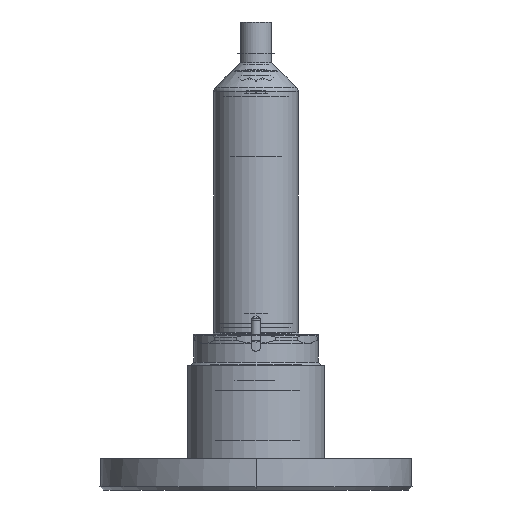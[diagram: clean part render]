
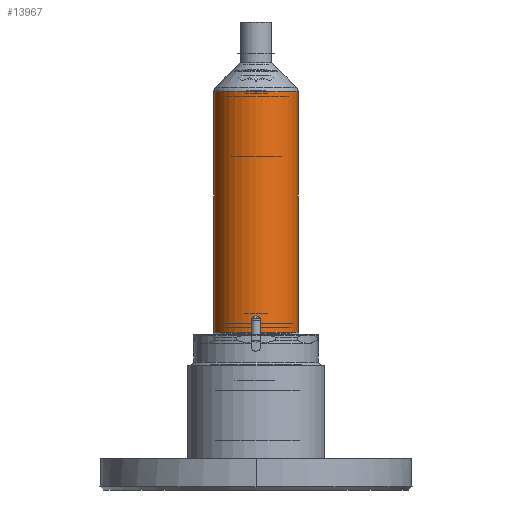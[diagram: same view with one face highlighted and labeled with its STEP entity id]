
A CAD part, front view. The second image highlights one B-rep face of the part: STEP entity #13967.
In plain terms, the highlighted cylindrical face has radius 13.5 mm (diameter 27 mm), a partial arc.
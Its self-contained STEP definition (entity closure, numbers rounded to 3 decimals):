
#1574 = DIRECTION ( 'NONE',  ( 0., 0., -1. ) ) ;
#1767 = EDGE_CURVE ( 'NONE', #4118, #15944, #16255, .T. ) ;
#1941 = DIRECTION ( 'NONE',  ( 1., 0., 0. ) ) ;
#2009 = CARTESIAN_POINT ( 'NONE',  ( 0., 0., 47.584 ) ) ;
#2486 = CARTESIAN_POINT ( 'NONE',  ( 13.5, 0., 40.5 ) ) ;
#2787 = CARTESIAN_POINT ( 'NONE',  ( -13.5, 0., 117.672 ) ) ;
#2825 = VERTEX_POINT ( 'NONE', #2486 ) ;
#3369 = EDGE_CURVE ( 'NONE', #4118, #2825, #9527, .T. ) ;
#3458 = DIRECTION ( 'NONE',  ( 0., 0., 1. ) ) ;
#4118 = VERTEX_POINT ( 'NONE', #5795 ) ;
#5009 = DIRECTION ( 'NONE',  ( 0., 0., 1. ) ) ;
#5795 = CARTESIAN_POINT ( 'NONE',  ( -13.5, 0., 40.5 ) ) ;
#6607 = CARTESIAN_POINT ( 'NONE',  ( 13.5, 0., 47.584 ) ) ;
#8753 = AXIS2_PLACEMENT_3D ( 'NONE', #2009, #3458, #1941 ) ;
#9112 = EDGE_LOOP ( 'NONE', ( #15072, #15419, #20348, #20537 ) ) ;
#9527 = CIRCLE ( 'NONE', #12446, 13.5 ) ;
#10097 = CARTESIAN_POINT ( 'NONE',  ( 0., 0., 117.672 ) ) ;
#10867 = DIRECTION ( 'NONE',  ( 1., 0., 0. ) ) ;
#11336 = EDGE_CURVE ( 'NONE', #21197, #15944, #16724, .T. ) ;
#12446 = AXIS2_PLACEMENT_3D ( 'NONE', #19027, #20690, #10867 ) ;
#13660 = AXIS2_PLACEMENT_3D ( 'NONE', #10097, #1574, #14970 ) ;
#13673 = LINE ( 'NONE', #6607, #16490 ) ;
#13967 = ADVANCED_FACE ( 'NONE', ( #19967 ), #15578, .T. ) ;
#14970 = DIRECTION ( 'NONE',  ( 1., 0., 0. ) ) ;
#15072 = ORIENTED_EDGE ( 'NONE', *, *, #1767, .F. ) ;
#15419 = ORIENTED_EDGE ( 'NONE', *, *, #3369, .T. ) ;
#15578 = CYLINDRICAL_SURFACE ( 'NONE', #8753, 13.5 ) ;
#15674 = DIRECTION ( 'NONE',  ( 0., 0., 1. ) ) ;
#15944 = VERTEX_POINT ( 'NONE', #2787 ) ;
#16255 = LINE ( 'NONE', #18978, #17029 ) ;
#16490 = VECTOR ( 'NONE', #5009, 1000. ) ;
#16724 = CIRCLE ( 'NONE', #13660, 13.5 ) ;
#17029 = VECTOR ( 'NONE', #15674, 1000. ) ;
#17154 = EDGE_CURVE ( 'NONE', #2825, #21197, #13673, .T. ) ;
#18978 = CARTESIAN_POINT ( 'NONE',  ( -13.5, 0., 47.584 ) ) ;
#19027 = CARTESIAN_POINT ( 'NONE',  ( 0., 0., 40.5 ) ) ;
#19383 = CARTESIAN_POINT ( 'NONE',  ( 13.5, 0., 117.672 ) ) ;
#19967 = FACE_OUTER_BOUND ( 'NONE', #9112, .T. ) ;
#20348 = ORIENTED_EDGE ( 'NONE', *, *, #17154, .T. ) ;
#20537 = ORIENTED_EDGE ( 'NONE', *, *, #11336, .T. ) ;
#20690 = DIRECTION ( 'NONE',  ( 0., 0., 1. ) ) ;
#21197 = VERTEX_POINT ( 'NONE', #19383 ) ;
